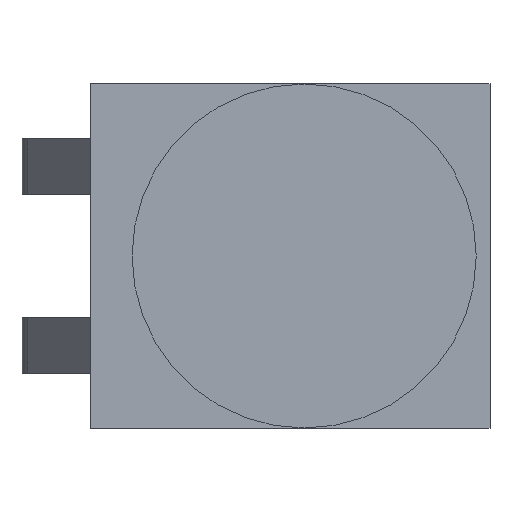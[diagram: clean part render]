
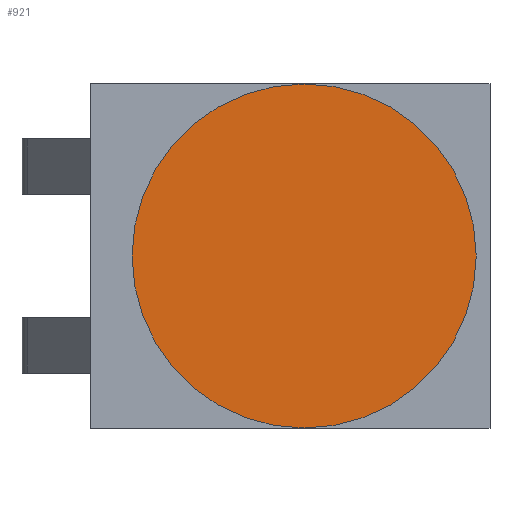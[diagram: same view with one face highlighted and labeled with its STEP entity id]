
A CAD part, left-side view. The second image highlights one B-rep face of the part: STEP entity #921.
In plain terms, the highlighted planar face has unit normal (-1, 0, 0).
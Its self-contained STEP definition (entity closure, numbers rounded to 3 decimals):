
#320=CARTESIAN_POINT('',(-8.85,0.2,0.));
#321=DIRECTION('',(-1.,0.,0.));
#322=DIRECTION('',(0.,0.,1.));
#323=AXIS2_PLACEMENT_3D('',#320,#321,#322);
#325=CARTESIAN_POINT('',(-8.85,0.2,0.));
#326=DIRECTION('',(-1.,0.,0.));
#327=DIRECTION('',(0.,0.,-1.));
#328=AXIS2_PLACEMENT_3D('',#325,#326,#327);
#366=CARTESIAN_POINT('',(-8.85,0.2,2.5));
#367=CARTESIAN_POINT('',(-8.85,0.2,-2.5));
#368=VERTEX_POINT('',#366);
#369=VERTEX_POINT('',#367);
#912=CARTESIAN_POINT('',(-8.85,0.,-2.5));
#913=DIRECTION('',(-1.,0.,0.));
#914=DIRECTION('',(0.,0.,1.));
#915=AXIS2_PLACEMENT_3D('',#912,#913,#914);
#916=PLANE('',#915);
#917=ORIENTED_EDGE('',*,*,#892,.F.);
#918=ORIENTED_EDGE('',*,*,#906,.F.);
#919=EDGE_LOOP('',(#917,#918));
#920=FACE_OUTER_BOUND('',#919,.F.);
#921=ADVANCED_FACE('',(#920),#916,.T.);
#324=CIRCLE('',#323,2.5);
#329=CIRCLE('',#328,2.5);
#892=EDGE_CURVE('',#368,#369,#324,.T.);
#906=EDGE_CURVE('',#369,#368,#329,.T.);
